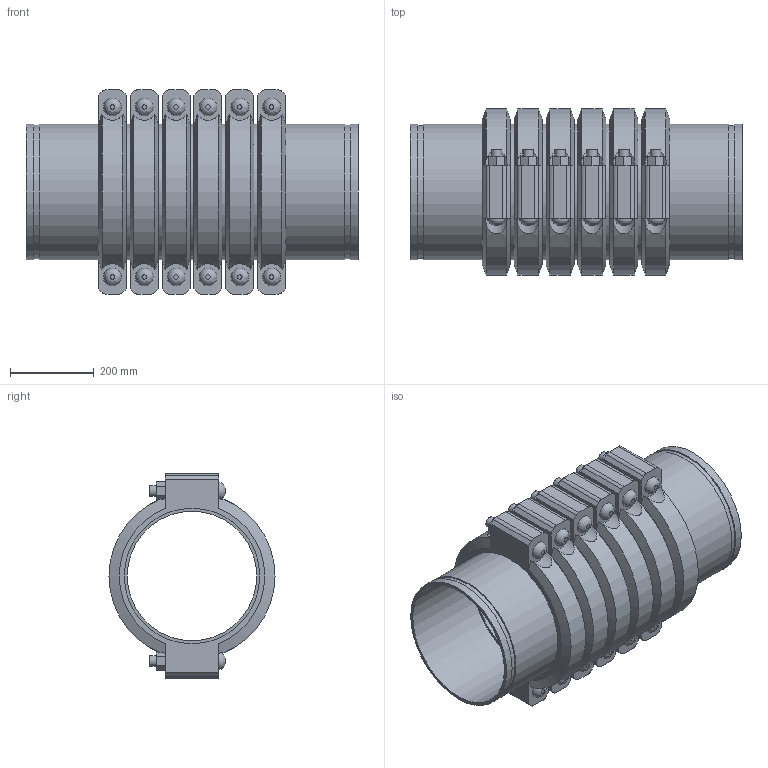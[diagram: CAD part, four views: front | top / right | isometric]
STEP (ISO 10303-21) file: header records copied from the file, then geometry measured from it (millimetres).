
FILE_DESCRIPTION(/* description */ ('VIC SS EXPANSION JOINT 6 COUPLINGS EXPANDED STYLE 155P (OGS) (POTABLE WATER) ','CAx-IF Rec.Pracs.---Representation and Presentation of Product Manufacturing Information (PMI)---4.0---2014-10-13'),/* implementation_level */ '2;1');
FILE_NAME(/* name */ 'C:\Users\kkamble\AppData\Roaming\Autodesk\ApplicationPlugins\Victaulic.Temp\A22\Victaulic_SS_Expansion Joint_Expanded_6 Couplings_Style 155P (OGS)-Potable Water_6 Coup_Expd_12 (300).stp',/* time_stamp */ '2021-07-16T16:54:22+05:00',/* author */ ('kkamble'),/* organization */ ('Victaulic'),/* preprocessor_version */ 'ST-DEVELOPER v17.2',/* originating_system */ 'Autodesk Inventor 2019',/* authorisation */ '');
FILE_SCHEMA (('AP242_MANAGED_MODEL_BASED_3D_ENGINEERING_MIM_LF { 1 0 10303 442 1 1 4 }'));
Length unit declared in the file: inch
Products named in the file (4): 155-12.0; Nipple-12.0; Nipple-12.0_1; 077-12.0
Assembly tree (13 placements, depth 2):
  155-12.0
    Nipple-12.0  x2
    Nipple-12.0_1  x5
    077-12.0  x6
Bounding box: 793.75 x 397 x 488.95 mm (x, y, z)
Volume: 25435687.8 mm3; surface area: 3634732.5 mm2
Topology: 13 solids, 25 shells, 450 faces, 1080 edges, 756 vertices
Faces by surface type: plane 258, cylinder 156, cone 24, bspline 12
Full cylindrical faces by diameter (mm): 25.4 x24, 27.432 x12, 309.677 x7, 314.96 x6, 318.287 x14, 323.85 x33
Entity records: 3064 total; most frequent: CARTESIAN_POINT 661, DIRECTION 481, ORIENTED_EDGE 410, EDGE_CURVE 205, AXIS2_PLACEMENT_3D 196, VERTEX_POINT 146, EDGE_LOOP 111, CIRCLE 96
